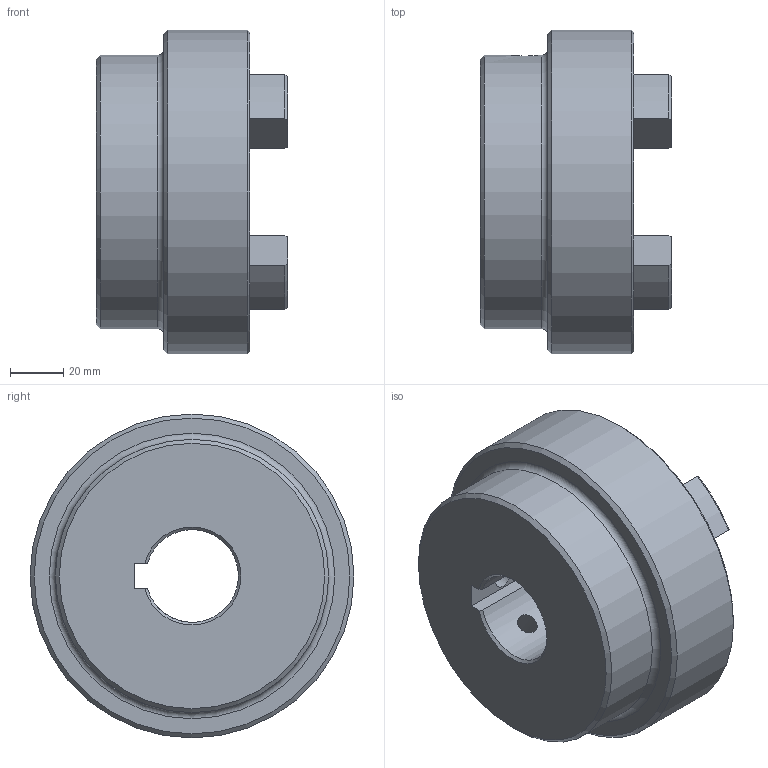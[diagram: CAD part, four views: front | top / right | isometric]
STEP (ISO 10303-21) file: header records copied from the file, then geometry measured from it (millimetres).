
FILE_DESCRIPTION (( 'STEP AP203' ), '1' );
FILE_NAME ('RC5.step', '2024-07-25T13:24:25', ( 'Adlan' ), ( '' ), 'SwSTEP 2.0', 'SolidWorks 2013', '' );
FILE_SCHEMA (( 'CONFIG_CONTROL_DESIGN' ));
Length unit declared in the file: inch
Products named in the file (1): RC5
Bounding box: 72.14 x 122.17 x 122.17 mm (x, y, z)
Volume: 435117.5 mm3; surface area: 59999.1 mm2
Topology: 1 solids, 1 shells, 83 faces, 210 edges, 131 vertices
Faces by surface type: cylinder 33, plane 19, torus 17, cone 14
Full cylindrical faces by diameter (mm): 7.937 x2, 103.124 x1, 122.174 x1
Entity records: 2787 total; most frequent: CARTESIAN_POINT 706, DIRECTION 446, ORIENTED_EDGE 394, EDGE_CURVE 197, AXIS2_PLACEMENT_3D 178, VERTEX_POINT 128, EDGE_LOOP 101, CIRCLE 94
